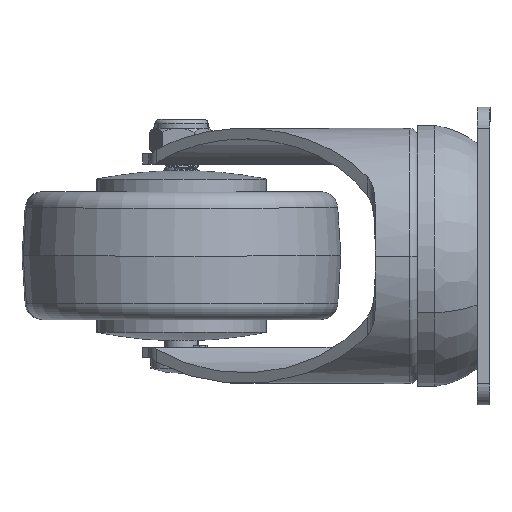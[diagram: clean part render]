
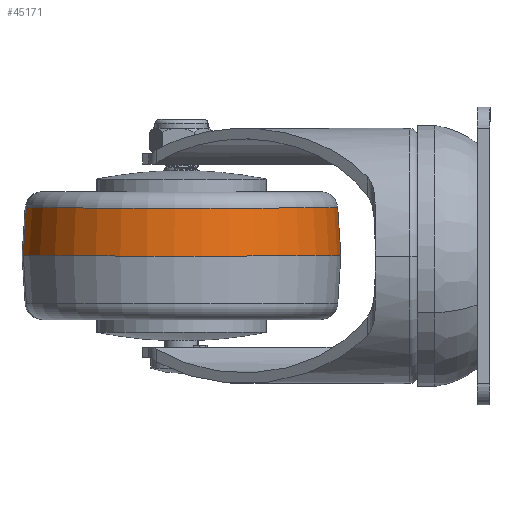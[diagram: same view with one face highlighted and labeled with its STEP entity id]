
A CAD part, left-side view. The second image highlights one B-rep face of the part: STEP entity #45171.
In plain terms, the highlighted conical face has half-angle 3.814 degrees and reference radius 36.749 mm.
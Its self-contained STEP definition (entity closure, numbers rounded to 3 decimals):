
#108 = EDGE_LOOP ( 'NONE', ( #2414, #47698, #43181, #34122 ) ) ;
#204 = DIRECTION ( 'NONE',  ( -1., 0., 0. ) ) ;
#2414 = ORIENTED_EDGE ( 'NONE', *, *, #23845, .T. ) ;
#4937 = DIRECTION ( 'NONE',  ( -1., 0., 0. ) ) ;
#6148 = EDGE_CURVE ( 'NONE', #6822, #31634, #36413, .T. ) ;
#6822 = VERTEX_POINT ( 'NONE', #42360 ) ;
#7619 = CIRCLE ( 'NONE', #43924, 37.5 ) ;
#8327 = CARTESIAN_POINT ( 'NONE',  ( 11.266, 0., 0. ) ) ;
#8409 = AXIS2_PLACEMENT_3D ( 'NONE', #17426, #4937, #47378 ) ;
#8611 = CARTESIAN_POINT ( 'NONE',  ( 0., 0., 37.5 ) ) ;
#9269 = DIRECTION ( 'NONE',  ( -0.998, 0., -0.067 ) ) ;
#11204 = DIRECTION ( 'NONE',  ( -0.998, 0., 0.067 ) ) ;
#11953 = DIRECTION ( 'NONE',  ( -1., 0., 0. ) ) ;
#15369 = CARTESIAN_POINT ( 'NONE',  ( 11.266, 0., 36.749 ) ) ;
#15698 = VERTEX_POINT ( 'NONE', #41234 ) ;
#16540 = CARTESIAN_POINT ( 'NONE',  ( 11.266, 0., -36.749 ) ) ;
#17426 = CARTESIAN_POINT ( 'NONE',  ( 11.266, 0., 0. ) ) ;
#23845 = EDGE_CURVE ( 'NONE', #6822, #40077, #35060, .T. ) ;
#26307 = DIRECTION ( 'NONE',  ( 0., 0., 1. ) ) ;
#26456 = CARTESIAN_POINT ( 'NONE',  ( 11.266, 0., -36.749 ) ) ;
#30473 = FACE_OUTER_BOUND ( 'NONE', #108, .T. ) ;
#30538 = VECTOR ( 'NONE', #9269, 1000. ) ;
#31554 = AXIS2_PLACEMENT_3D ( 'NONE', #8327, #11953, #37439 ) ;
#31634 = VERTEX_POINT ( 'NONE', #8611 ) ;
#34122 = ORIENTED_EDGE ( 'NONE', *, *, #6148, .F. ) ;
#34602 = CARTESIAN_POINT ( 'NONE',  ( 0., 0., 0. ) ) ;
#35060 = CIRCLE ( 'NONE', #31554, 36.749 ) ;
#35116 = VECTOR ( 'NONE', #11204, 1000. ) ;
#35899 = CONICAL_SURFACE ( 'NONE', #8409, 36.749, 0.067 ) ;
#36413 = LINE ( 'NONE', #15369, #35116 ) ;
#37439 = DIRECTION ( 'NONE',  ( 0., 0., 1. ) ) ;
#40077 = VERTEX_POINT ( 'NONE', #16540 ) ;
#41234 = CARTESIAN_POINT ( 'NONE',  ( 0., 0., -37.5 ) ) ;
#42360 = CARTESIAN_POINT ( 'NONE',  ( 11.266, 0., 36.749 ) ) ;
#43181 = ORIENTED_EDGE ( 'NONE', *, *, #47079, .F. ) ;
#43924 = AXIS2_PLACEMENT_3D ( 'NONE', #34602, #204, #26307 ) ;
#45171 = ADVANCED_FACE ( 'NONE', ( #30473 ), #35899, .T. ) ;
#47079 = EDGE_CURVE ( 'NONE', #31634, #15698, #7619, .T. ) ;
#47378 = DIRECTION ( 'NONE',  ( 0., 0., 1. ) ) ;
#47698 = ORIENTED_EDGE ( 'NONE', *, *, #53092, .T. ) ;
#52545 = LINE ( 'NONE', #26456, #30538 ) ;
#53092 = EDGE_CURVE ( 'NONE', #40077, #15698, #52545, .T. ) ;
